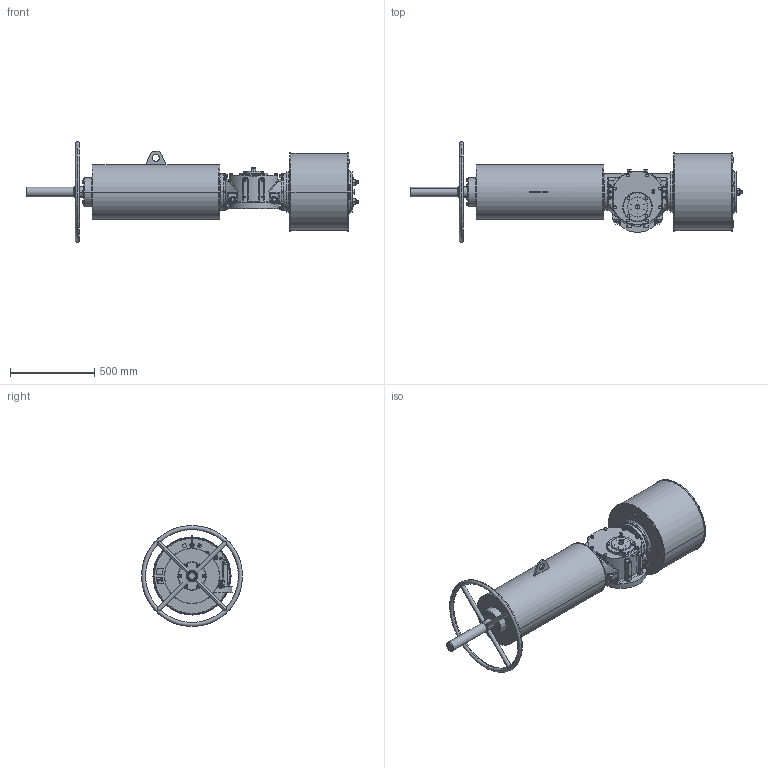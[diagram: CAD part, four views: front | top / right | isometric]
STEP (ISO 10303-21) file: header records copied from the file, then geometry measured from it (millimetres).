
FILE_DESCRIPTION (( 'STEP AP203' ), '1' );
FILE_NAME ('VTS3-450-SR-MS-FO.STEP', '2022-12-31T08:56:27', ( '' ), ( '' ), 'SwSTEP 2.0', 'SolidWorks 2020', '' );
FILE_SCHEMA (( 'CONFIG_CONTROL_DESIGN' ));
Length unit declared in the file: millimetre
Products named in the file (1): VTS3-450-SR-MS-FO
Bounding box: 1970.2 x 597.72 x 597.72 mm (x, y, z)
Volume: 145177697.4 mm3; surface area: 3186773.7 mm2
Topology: 34 solids, 39 shells, 2302 faces, 6007 edges, 3815 vertices
Faces by surface type: plane 891, cylinder 690, cone 506, bspline 143, torus 44, sphere 28
Entity records: 87662 total; most frequent: CARTESIAN_POINT 32790, ORIENTED_EDGE 11716, DIRECTION 11310, EDGE_CURVE 5858, AXIS2_PLACEMENT_3D 4535, VERTEX_POINT 3759, EDGE_LOOP 2561, CIRCLE 2375
